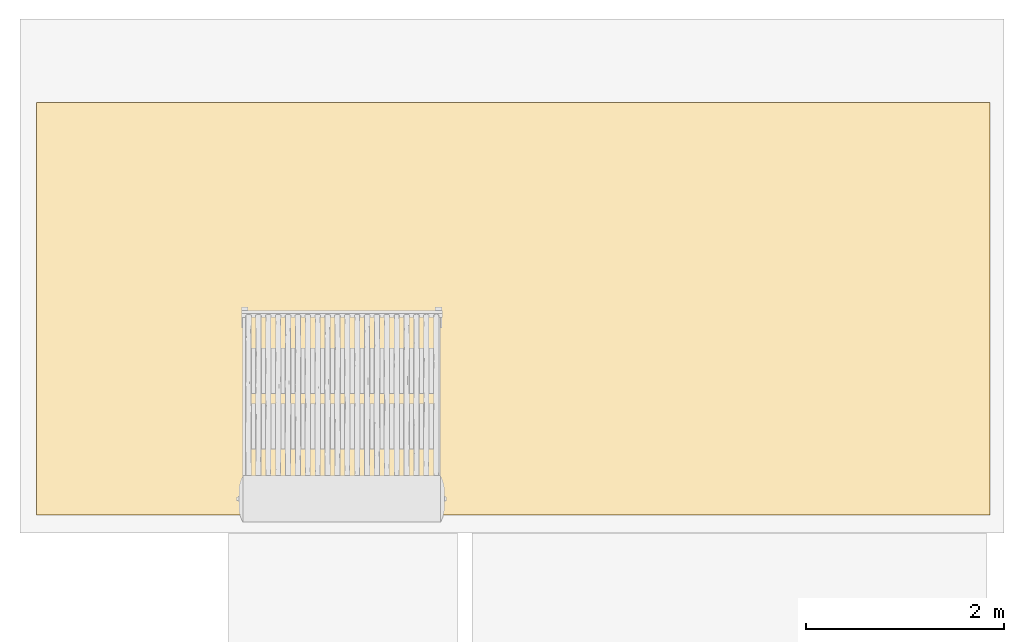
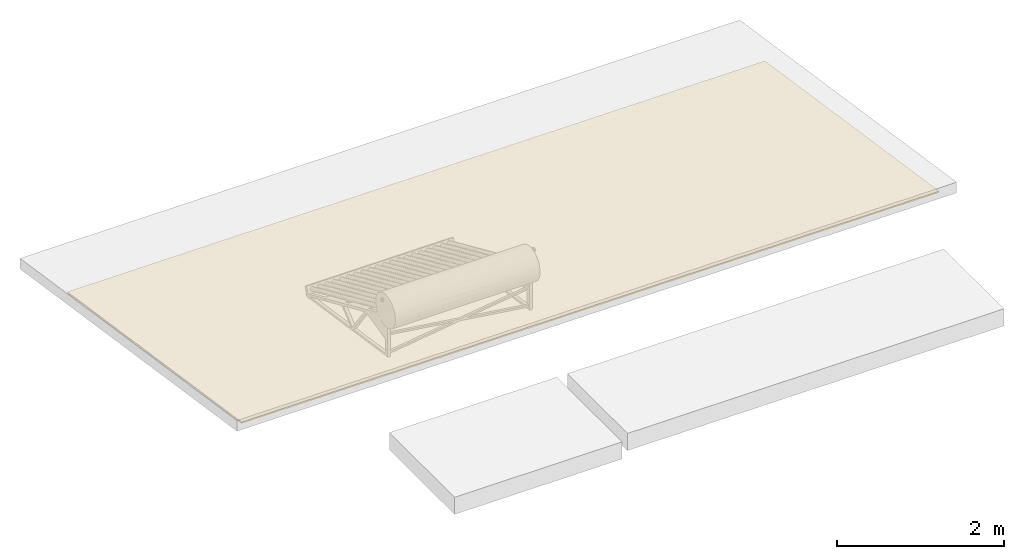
# One storey, part 2 of 2: 1 covering.
"""IFC2X3 building model written with IfcOpenShell, lengths in metres."""

from ifc_helpers import new_model, entity, si_unit, converted_unit, derived_unit, direction, frame, origin, place, context, subcontext, project, spatial, faceted_brep, material, layer, layer_set, layer_usage, type_object, element, save


model = new_model("IFC2X3")

# Units and contexts
model_context = context("Model", 3, precision=1e-05, world=origin(), true_north=direction((6.12303176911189e-17, 1.0)))
body_context = subcontext(model_context, "Body", "Model", "MODEL_VIEW")
ifc_project = project(units=[si_unit("LENGTHUNIT", "METRE"), si_unit("AREAUNIT", "SQUARE_METRE"), si_unit("VOLUMEUNIT", "CUBIC_METRE"), converted_unit("PLANEANGLEUNIT", "DEGREE", entity("IfcRatioMeasure", 0.0174532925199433), si_unit("PLANEANGLEUNIT", "RADIAN"), dimensions=[0, 0, 0, 0, 0, 0, 0]), si_unit("MASSUNIT", "GRAM", prefix="KILO"), derived_unit("MASSDENSITYUNIT", [(si_unit("MASSUNIT", "GRAM", prefix="KILO"), 1), (si_unit("LENGTHUNIT", "METRE"), -3)]), si_unit("TIMEUNIT", "SECOND"), si_unit("FREQUENCYUNIT", "HERTZ"), si_unit("THERMODYNAMICTEMPERATUREUNIT", "DEGREE_CELSIUS"), derived_unit("THERMALTRANSMITTANCEUNIT", [(si_unit("MASSUNIT", "GRAM", prefix="KILO"), 1), (si_unit("THERMODYNAMICTEMPERATUREUNIT", "KELVIN"), -1), (si_unit("TIMEUNIT", "SECOND"), -3)]), derived_unit("VOLUMETRICFLOWRATEUNIT", [(si_unit("LENGTHUNIT", "METRE"), 3), (si_unit("TIMEUNIT", "SECOND"), -1)]), si_unit("ELECTRICCURRENTUNIT", "AMPERE"), si_unit("ELECTRICVOLTAGEUNIT", "VOLT"), si_unit("POWERUNIT", "WATT"), si_unit("FORCEUNIT", "NEWTON", prefix="KILO"), si_unit("ILLUMINANCEUNIT", "LUX"), si_unit("LUMINOUSFLUXUNIT", "LUMEN"), si_unit("LUMINOUSINTENSITYUNIT", "CANDELA"), derived_unit("USERDEFINED", [(si_unit("MASSUNIT", "GRAM", prefix="KILO"), -1), (si_unit("LENGTHUNIT", "METRE"), -2), (si_unit("TIMEUNIT", "SECOND"), 3), (si_unit("LUMINOUSFLUXUNIT", "LUMEN"), 1)]), derived_unit("LINEARVELOCITYUNIT", [(si_unit("LENGTHUNIT", "METRE"), 1), (si_unit("TIMEUNIT", "SECOND"), -1)]), si_unit("PRESSUREUNIT", "PASCAL"), derived_unit("USERDEFINED", [(si_unit("LENGTHUNIT", "METRE"), -2), (si_unit("MASSUNIT", "GRAM", prefix="KILO"), 1), (si_unit("TIMEUNIT", "SECOND"), -2)])], contexts=[model_context])

# Site, building, storey
site_placement = place(None, origin())
site = spatial("IfcSite", under=ifc_project, at=site_placement, Name="Surface", CompositionType="ELEMENT")
building_placement = place(site_placement, origin())
building = spatial("IfcBuilding", under=site, at=building_placement, CompositionType="ELEMENT")
storey_placement = place(building_placement, frame((0.0, 0.0, 2.69999999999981)))
storey = spatial("IfcBuildingStorey", under=building, at=storey_placement, Name="Nivel 1", CompositionType="ELEMENT", Elevation=2.69999999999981)

# Covering
ifc_material = material(Name="Cielorraso aplicado de yeso")
ifc_layer = layer(ifc_material, 0.02)
ifc_layer_set = layer_set([ifc_layer], Name="Compound Ceiling:1282-Aplicado de yeso")
ifc_layer_usage = layer_usage(ifc_layer_set, "AXIS3", "POSITIVE", 0.0)
covering_type = type_object("IfcCoveringType", Name="Compound Ceiling:1282-Aplicado de yeso", PredefinedType="CEILING")
covering_placement = place(storey_placement, frame((-8.84071836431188, -1.63404870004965, 0.0979431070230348)))
element("IfcCovering", 1, at=covering_placement, inside=storey, type_object=covering_type, material=ifc_layer_usage, Name="Compound Ceiling:1282-Aplicado de yeso", ObjectType="Compound Ceiling:1282-Aplicado de yeso", PredefinedType="CEILING", context=body_context, shape_type="Brep", body=[
    faceted_brep([(9.64000000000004, 0.0, 0.646035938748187), (9.64000000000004, 4.1720812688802, 0.0202237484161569), (0.0, 4.1720812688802, 0.0202237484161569), (0.0, 0.0, 0.646035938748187), (9.64000000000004, 0.0, 0.62581219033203), (0.0, 0.0, 0.62581219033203), (0.0, 4.1720812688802, 0.0), (9.64000000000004, 4.1720812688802, 0.0)], [[[0, 1, 2, 3]], [[4, 5, 6, 7]], [[1, 0, 4, 7]], [[2, 1, 7, 6]], [[3, 2, 6, 5]], [[0, 3, 5, 4]]]),
])

save(model, "model.ifc")
